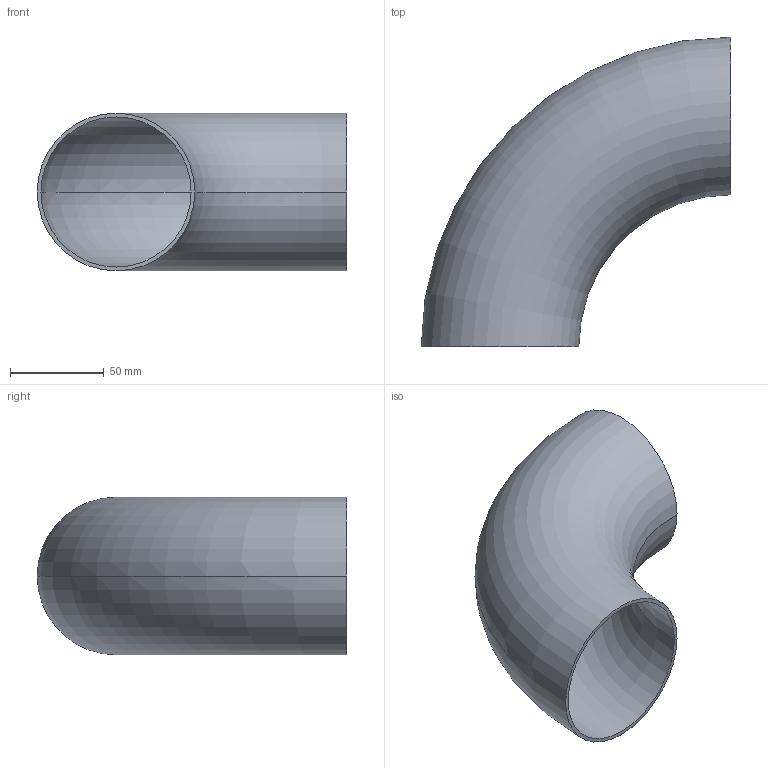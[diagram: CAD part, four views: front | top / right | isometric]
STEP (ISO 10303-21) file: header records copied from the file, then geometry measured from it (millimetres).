
FILE_DESCRIPTION (( 'STEP AP203' ), '1' );
FILE_NAME ('OT212-80-84x2_OSTP.step', '2020-12-16T02:37:35', ( '' ), ( '' ), 'SwSTEP 2.0', 'SolidWorks 2014', '' );
FILE_SCHEMA (( 'CONFIG_CONTROL_DESIGN' ));
Length unit declared in the file: millimetre
Products named in the file (1): OT212-80-84x2_OSTP
Bounding box: 165 x 165 x 84 mm (x, y, z)
Volume: 99544.8 mm3; surface area: 100575.3 mm2
Topology: 1 solids, 1 shells, 6 faces, 12 edges, 8 vertices
Faces by surface type: torus 4, plane 2
Entity records: 249 total; most frequent: DIRECTION 38, CARTESIAN_POINT 27, ORIENTED_EDGE 24, AXIS2_PLACEMENT_3D 19, CIRCLE 12, EDGE_CURVE 12, PERSON_AND_ORGANIZATION 8, VERTEX_POINT 8
